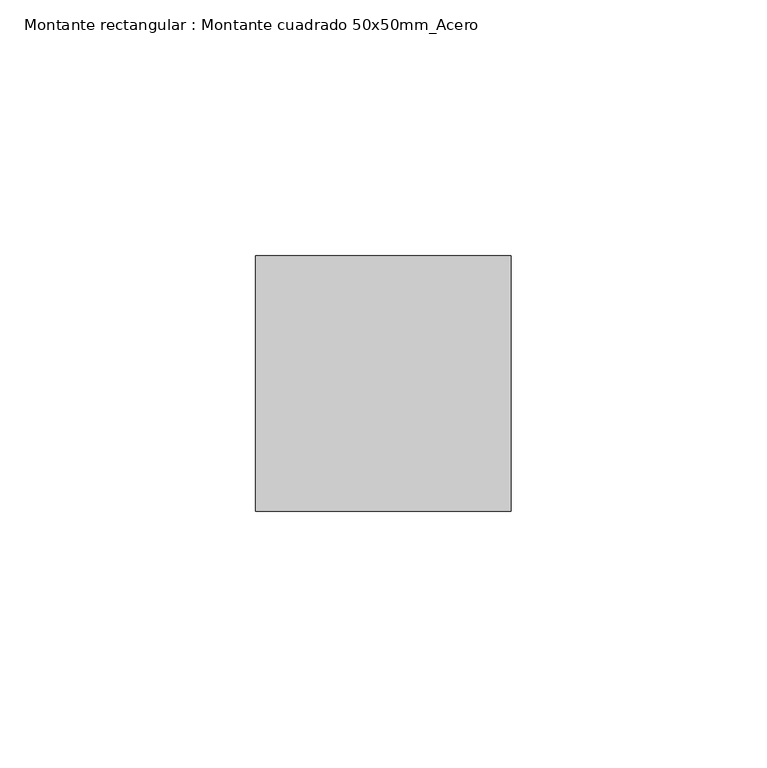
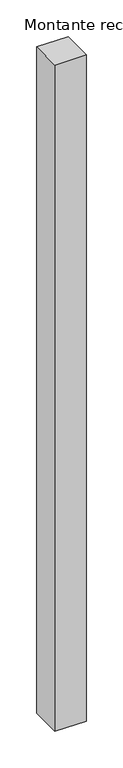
"""IFC4 building model written with IfcOpenShell, lengths in millimetres: member geometry, Montante rectangular : Montante cuadrado 50x50mm_Acero."""

import ifcopenshell
import ifcopenshell.guid

model = None  # the IFC model being written
_history = None  # IfcOwnerHistory: only IFC2X3 demands one
_inside = {}  # id of a spatial element -> (the spatial element, [elements in it])
_under = {}  # id of a project, library or spatial element -> (it, [spatial elements below it])
_declared = {}  # id of a project -> (the project, [libraries it declares])
_typed = {}  # id of a type object -> (the type object, [elements of that type])
_made_of = {}  # id of a material, layer set ... -> (it, [elements and type objects made of it])


def new_model(schema):
    """Start an empty IFC model of exactly this schema.

    Asked for "IFC4X3", IfcOpenShell would pick the latest addendum, in which some entities
    have other attributes; the version numbers below select the first issue.
    IFC2X3 requires an IfcOwnerHistory on every rooted entity: one is made here for all.
    """
    global model, _history
    if schema == "IFC4X3":
        model = ifcopenshell.file(schema_version=(4, 3, 0, 0))
    else:
        model = ifcopenshell.file(schema=schema)
    _inside.clear()
    _under.clear()
    _declared.clear()
    _typed.clear()
    _made_of.clear()
    _history = None
    if model.schema == "IFC2X3":
        org = make("IfcOrganization", Name="unknown")
        user = make(
            "IfcPersonAndOrganization",
            ThePerson=make("IfcPerson", FamilyName="unknown"),
            TheOrganization=org,
        )
        app = make(
            "IfcApplication",
            ApplicationDeveloper=org,
            Version="unknown",
            ApplicationFullName="unknown",
            ApplicationIdentifier="unknown",
        )
        _history = make(
            "IfcOwnerHistory",
            OwningUser=user,
            OwningApplication=app,
            ChangeAction="ADDED",
            CreationDate=0,
        )
    return model


def make(cls, **values):
    """One entity of the class cls with the attributes given. An attribute that is None is left unset."""
    return model.create_entity(
        cls, **{name: value for name, value in values.items() if value is not None}
    )


def rooted(cls, **values):
    """An entity with a GlobalId (a new one), such as an element, a storey or a relation."""
    return make(cls, GlobalId=ifcopenshell.guid.new(), OwnerHistory=_history, **values)


def si_unit(unit_type, name, prefix=None):
    """IfcSIUnit, for example si_unit("LENGTHUNIT", "METRE", prefix="MILLI")."""
    return make("IfcSIUnit", UnitType=unit_type, Prefix=prefix, Name=name)


def assignment(units):
    """IfcUnitAssignment: the units of a project."""
    return None if units is None else make("IfcUnitAssignment", Units=units)


def point(xyz):
    """IfcCartesianPoint."""
    return None if xyz is None else make("IfcCartesianPoint", Coordinates=xyz)


def direction(xyz):
    """IfcDirection."""
    return None if xyz is None else make("IfcDirection", DirectionRatios=xyz)


def frame(location, z_axis=None, x_axis=None):
    """IfcAxis2Placement3D, a coordinate frame: its origin and axes. An axis left out is left unset."""
    return make(
        "IfcAxis2Placement3D",
        Location=point(location),
        Axis=direction(z_axis),
        RefDirection=direction(x_axis),
    )


def origin():
    """The frame at (0, 0, 0) with its axes left unset."""
    return frame((0.0, 0.0, 0.0))


def place(relative_to, where):
    """IfcLocalPlacement: puts the frame where relative to a parent placement (None: the world)."""
    return make(
        "IfcLocalPlacement", PlacementRelTo=relative_to, RelativePlacement=where
    )


def context(
    kind, dimensions, precision=None, world=None, true_north=None, identifier=None
):
    """IfcGeometricRepresentationContext, for example the 3D "Model" context."""
    return make(
        "IfcGeometricRepresentationContext",
        ContextIdentifier=identifier,
        ContextType=kind,
        CoordinateSpaceDimension=dimensions,
        Precision=precision,
        WorldCoordinateSystem=world,
        TrueNorth=true_north,
    )


def project(units=None, contexts=None):
    """IfcProject with its units and contexts."""
    return rooted(
        "IfcProject",
        Name="project",
        RepresentationContexts=contexts,
        UnitsInContext=assignment(units),
    )


def spatial(cls, under=None, at=None, **own):
    """A site, building, storey or space (cls), placed at a placement, below another one or the project."""
    s = rooted(cls, ObjectPlacement=at, **own)
    if under is not None:
        _under.setdefault(under.id(), (under, []))[1].append(s)
    return s


def polyline(points):
    """IfcPolyline through the points."""
    return make("IfcPolyline", Points=[point(p) for p in points])


def outline(outer, holes=None, kind="AREA"):
    """IfcArbitraryClosedProfileDef: a profile drawn as a closed curve; with holes, ...WithVoids."""
    if holes is None:
        return make("IfcArbitraryClosedProfileDef", ProfileType=kind, OuterCurve=outer)
    return make(
        "IfcArbitraryProfileDefWithVoids",
        ProfileType=kind,
        OuterCurve=outer,
        InnerCurves=holes,
    )


def extrude(swept, where, along, depth):
    """IfcExtrudedAreaSolid: the profile swept, set in the frame where, extruded along a direction by depth."""
    return make(
        "IfcExtrudedAreaSolid",
        SweptArea=swept,
        Position=where,
        ExtrudedDirection=direction(along),
        Depth=depth,
    )


def shape(context_of_items, identifier, shape_type, items):
    """IfcShapeRepresentation: the items that make up one representation, for example the "Body"."""
    return make(
        "IfcShapeRepresentation",
        ContextOfItems=context_of_items,
        RepresentationIdentifier=identifier,
        RepresentationType=shape_type,
        Items=items,
    )


def source(mapping_origin, context_of_items, identifier, shape_type, items):
    """IfcRepresentationMap: a shape defined once, which mapped items show again and again."""
    return make(
        "IfcRepresentationMap",
        MappingOrigin=mapping_origin,
        MappedRepresentation=shape(context_of_items, identifier, shape_type, items),
    )


def transform(
    local_origin,
    x_axis=None,
    y_axis=None,
    z_axis=None,
    scale=None,
    scale2=None,
    scale3=None,
    uniform=True,
):
    """IfcCartesianTransformationOperator3D, or its non-uniform kind. x_axis, y_axis, z_axis: its Axis1, 2, 3."""
    if uniform:
        return make(
            "IfcCartesianTransformationOperator3D",
            Axis1=direction(x_axis),
            Axis2=direction(y_axis),
            LocalOrigin=point(local_origin),
            Scale=scale,
            Axis3=direction(z_axis),
        )
    return make(
        "IfcCartesianTransformationOperator3DnonUniform",
        Axis1=direction(x_axis),
        Axis2=direction(y_axis),
        LocalOrigin=point(local_origin),
        Scale=scale,
        Axis3=direction(z_axis),
        Scale2=scale2,
        Scale3=scale3,
    )


def mapped(mapping_source, mapping_target):
    """IfcMappedItem: shows the shape of a source again, moved by a transform."""
    return make(
        "IfcMappedItem", MappingSource=mapping_source, MappingTarget=mapping_target
    )


def made_of(thing, what):
    """Note that an element or type object is made of a material, layer set ...; save() writes the relation."""
    if what is not None:
        _made_of.setdefault(what.id(), (what, []))[1].append(thing)
    return thing


def element(
    cls,
    number,
    at=None,
    inside=None,
    cuts=None,
    type_object=None,
    material=None,
    context=None,
    identifier="Body",
    shape_type=None,
    held_by="IfcProductDefinitionShape",
    body=None,
    shapes=None,
    **own,
):
    """One element of the class cls, such as IfcWall. Its Tag is "e" and its number.

    at: its placement. inside: the storey or other place that contains it. cuts: it is an
    opening in that element (IfcRelVoidsElement). A single representation is given by context,
    identifier, shape_type and body (its items); several are given by shapes. held_by: the class
    of the entity that holds the representations. save() writes the other relations.
    """
    e = rooted(cls, Tag="e%d" % number, ObjectPlacement=at, **own)
    if body is not None:
        shapes = [shape(context, identifier, shape_type, body)]
    if shapes is not None:
        e.Representation = make(held_by, Representations=shapes)
    if inside is not None:
        _inside.setdefault(inside.id(), (inside, []))[1].append(e)
    if cuts is not None:
        rooted(
            "IfcRelVoidsElement", RelatingBuildingElement=cuts, RelatedOpeningElement=e
        )
    if type_object is not None:
        _typed.setdefault(type_object.id(), (type_object, []))[1].append(e)
    return made_of(e, material)


def aggregate(whole, parts):
    """IfcRelAggregates: a whole, such as a stair, and the parts it consists of."""
    return rooted("IfcRelAggregates", RelatingObject=whole, RelatedObjects=parts)


def save(model, path):
    """Write the relations noted so far, then the file.

    IfcRelAggregates (storeys below a building ...), IfcRelContainedInSpatialStructure (elements
    in a storey), IfcRelDefinesByType, IfcRelAssociatesMaterial and IfcRelDeclares: one each for
    every whole, place, type object, material and project.
    """
    for whole, parts in _under.values():
        aggregate(whole, parts)
    for where, things in _inside.values():
        rooted(
            "IfcRelContainedInSpatialStructure",
            RelatedElements=things,
            RelatingStructure=where,
        )
    for kind, things in _typed.values():
        rooted("IfcRelDefinesByType", RelatedObjects=things, RelatingType=kind)
    for what, things in _made_of.values():
        rooted("IfcRelAssociatesMaterial", RelatedObjects=things, RelatingMaterial=what)
    for by, libraries in _declared.values():
        rooted("IfcRelDeclares", RelatingContext=by, RelatedDefinitions=libraries)
    model.write(path)


def montante_rectangular_montante_cuadrado_50x50mm_acero_ab25841c(model_context):
    return source(origin(), model_context, "Body", "SweptSolid", [
        extrude(outline(polyline([(0.0, 0.0), (0.0, -50.0), (-50.0, -50.0), (-50.0, 0.0), (0.0, 0.0)])), frame((0.0, 0.0, -1114.0000013), z_axis=(0.0, 0.0, 1.0), x_axis=(1.0, 0.0, 0.0)), (0.0, 0.0, 1.0), 1114.0000013),
    ])


if __name__ == "__main__":
    model = new_model("IFC4")
    model_context = context("Model", 3, world=origin())
    ifc_project = project(units=[si_unit("LENGTHUNIT", "METRE", prefix="MILLI")], contexts=[model_context])
    site = spatial("IfcSite", under=ifc_project)
    building = spatial("IfcBuilding", under=site)
    placement = place(None, origin())
    montante_rectangular_montante_cuadrado_50x50mm_acero_shape = montante_rectangular_montante_cuadrado_50x50mm_acero_ab25841c(model_context)
    element("IfcMember", 1, ObjectType="Montante rectangular : Montante cuadrado 50x50mm_Acero", at=placement, inside=building, context=model_context, shape_type="MappedRepresentation", body=[
        mapped(montante_rectangular_montante_cuadrado_50x50mm_acero_shape, transform((0.0, 0.0, 0.0), x_axis=(1.0, 0.0, 0.0), y_axis=(0.0, 1.0, 0.0), z_axis=(0.0, 0.0, 1.0))),
    ])
    save(model, "model.ifc")
